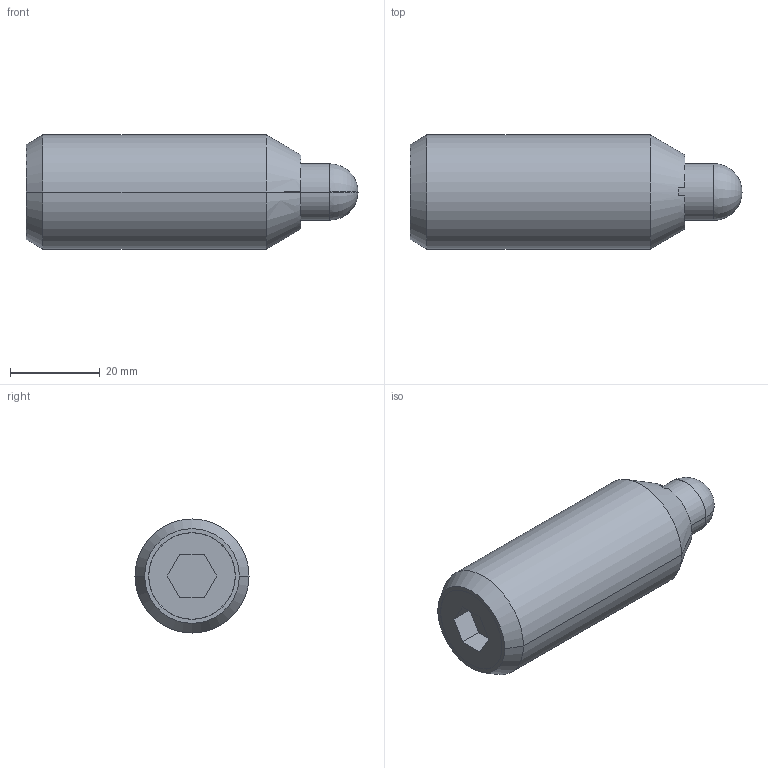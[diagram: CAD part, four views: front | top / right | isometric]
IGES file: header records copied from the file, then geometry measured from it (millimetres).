
Start section:  PTC IGES file: s66-3d.igs
Global section: file name: s66-3d.igs; native system: Pro/ENGINEER by Parametric Technology Corporation; preprocessor: 2002350; author: chant; organization: Unknown; date: 061031.144605; units: inch
Bounding box: 73.91 x 25.4 x 25.4 mm (x, y, z)
Surface area: 6491.7 mm2 (no closed solid volume)
Topology: 0 solids, 0 shells, 32 faces, 222 edges, 280 vertices
Faces by surface type: bspline 16, revolution 16
